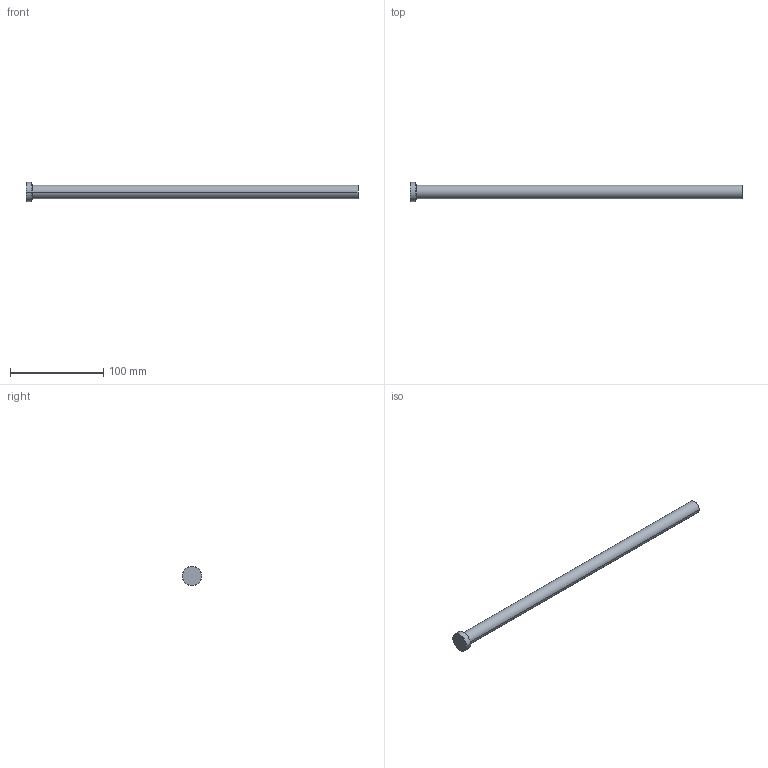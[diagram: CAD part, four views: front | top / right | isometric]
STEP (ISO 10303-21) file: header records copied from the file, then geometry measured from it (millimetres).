
FILE_DESCRIPTION (( 'STEP AP214' ), '1' );
FILE_NAME ('P35-14.STEP', '2020-03-12T12:00:53', ( '' ), ( '' ), 'SwSTEP 2.0', 'SolidWorks 2018', '' );
FILE_SCHEMA (( 'AUTOMOTIVE_DESIGN' ));
Length unit declared in the file: inch
Products named in the file (1): P35-14
Bounding box: 355.6 x 20.64 x 20.64 mm (x, y, z)
Volume: 58023.3 mm3; surface area: 16720.9 mm2
Topology: 1 solids, 1 shells, 13 faces, 24 edges, 14 vertices
Faces by surface type: cone 4, cylinder 4, plane 3, torus 2
Entity records: 366 total; most frequent: DIRECTION 68, CARTESIAN_POINT 52, ORIENTED_EDGE 48, AXIS2_PLACEMENT_3D 30, EDGE_CURVE 24, CIRCLE 16, VERTEX_POINT 14, EDGE_LOOP 14
